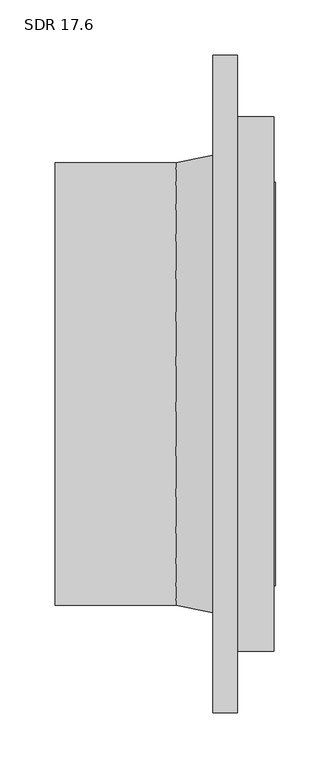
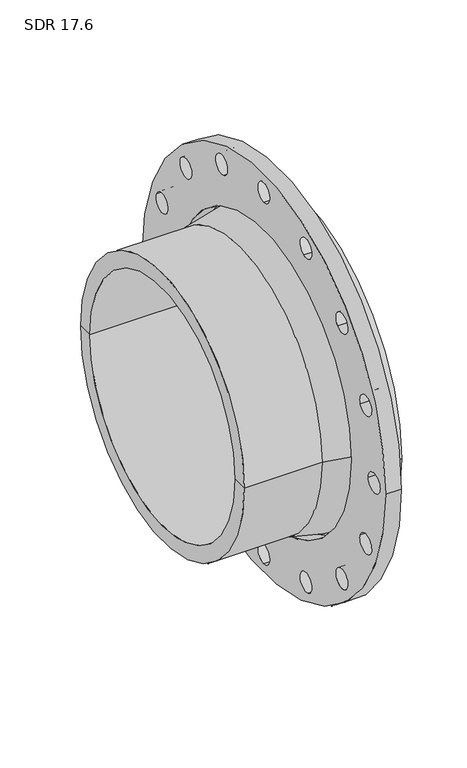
"""IFC4 building model written with IfcOpenShell, lengths in millimetres: valve geometry, Aquatherm - Flange Adapter Butt-Weld : SDR 17.6."""

from ifc_helpers import new_model, si_unit, point, frame, frame_2d, origin, origin_2d, place, context, project, spatial, polyline, circle_curve, trimmed, segment, composite_curve, outline, extrude, source, transform, mapped, element, save
from ifc_brep_helpers import plane_surface, cylinder_surface, revolved_surface, advanced_brep


def sdr_17_6_9f485c36(model_context):
    return source(origin(), model_context, "Body", "SolidModel", [
        extrude(outline(composite_curve([segment(trimmed(circle_curve(origin_2d(), 298.45), [point((-298.45, 0.0))], [point((298.45, 0.0))], False, "CARTESIAN"), True, "CONTINUOUS"), segment(trimmed(circle_curve(origin_2d(), 298.45), [point((298.45, 0.0))], [point((-298.45, 0.0))], False, "CARTESIAN"), True, "CONTINUOUS")], self_intersect=False), holes=[composite_curve([segment(trimmed(circle_curve(origin_2d(), 214.63), [point((-214.63, 0.0))], [point((214.63, 0.0))], True, "CARTESIAN"), True, "CONTINUOUS"), segment(trimmed(circle_curve(origin_2d(), 214.63), [point((214.63, 0.0))], [point((-214.63, 0.0))], True, "CARTESIAN"), True, "CONTINUOUS")], self_intersect=False), composite_curve([segment(trimmed(circle_curve(frame_2d((270.51, 0.0)), 14.351), [point((256.159, 0.0))], [point((284.861, 0.0))], True, "CARTESIAN"), True, "CONTINUOUS"), segment(trimmed(circle_curve(frame_2d((270.51, 0.0)), 14.351), [point((284.861, 0.0))], [point((256.159, 0.0))], True, "CARTESIAN"), True, "CONTINUOUS")], self_intersect=False), composite_curve([segment(trimmed(circle_curve(frame_2d((249.9186523, -103.5196953)), 14.351), [point((236.6600572, -98.0278054))], [point((263.1772475, -109.0115852))], True, "CARTESIAN"), True, "CONTINUOUS"), segment(trimmed(circle_curve(frame_2d((249.9186523, -103.5196953)), 14.351), [point((263.1772475, -109.0115852))], [point((236.6600572, -98.0278054))], True, "CARTESIAN"), True, "CONTINUOUS")], self_intersect=False), composite_curve([segment(trimmed(circle_curve(frame_2d((249.9186523, 103.5196953)), 14.351), [point((236.6600572, 98.0278054))], [point((263.1772475, 109.0115852))], True, "CARTESIAN"), True, "CONTINUOUS"), segment(trimmed(circle_curve(frame_2d((249.9186523, 103.5196953)), 14.351), [point((263.1772475, 109.0115852))], [point((236.6600572, 98.0278054))], True, "CARTESIAN"), True, "CONTINUOUS")], self_intersect=False), composite_curve([segment(trimmed(circle_curve(frame_2d((191.2794554, 191.2794554)), 14.351), [point((181.131766, 181.131766))], [point((201.4271448, 201.4271448))], True, "CARTESIAN"), True, "CONTINUOUS"), segment(trimmed(circle_curve(frame_2d((191.2794554, 191.2794554)), 14.351), [point((201.4271448, 201.4271448))], [point((181.131766, 181.131766))], True, "CARTESIAN"), True, "CONTINUOUS")], self_intersect=False), composite_curve([segment(trimmed(circle_curve(frame_2d((103.5196953, 249.9186523)), 14.351), [point((98.0278054, 236.6600572))], [point((109.0115852, 263.1772475))], True, "CARTESIAN"), True, "CONTINUOUS"), segment(trimmed(circle_curve(frame_2d((103.5196953, 249.9186523)), 14.351), [point((109.0115852, 263.1772475))], [point((98.0278054, 236.6600572))], True, "CARTESIAN"), True, "CONTINUOUS")], self_intersect=False), composite_curve([segment(trimmed(circle_curve(frame_2d((0.0, 270.51)), 14.351), [point((0.0, 256.159))], [point((0.0, 284.861))], True, "CARTESIAN"), True, "CONTINUOUS"), segment(trimmed(circle_curve(frame_2d((0.0, 270.51)), 14.351), [point((0.0, 284.861))], [point((0.0, 256.159))], True, "CARTESIAN"), True, "CONTINUOUS")], self_intersect=False), composite_curve([segment(trimmed(circle_curve(frame_2d((-103.5196953, 249.9186523)), 14.351), [point((-98.0278054, 236.6600572))], [point((-109.0115852, 263.1772475))], True, "CARTESIAN"), True, "CONTINUOUS"), segment(trimmed(circle_curve(frame_2d((-103.5196953, 249.9186523)), 14.351), [point((-109.0115852, 263.1772475))], [point((-98.0278054, 236.6600572))], True, "CARTESIAN"), True, "CONTINUOUS")], self_intersect=False), composite_curve([segment(trimmed(circle_curve(frame_2d((-191.2794554, 191.2794554)), 14.351), [point((-181.131766, 181.131766))], [point((-201.4271448, 201.4271448))], True, "CARTESIAN"), True, "CONTINUOUS"), segment(trimmed(circle_curve(frame_2d((-191.2794554, 191.2794554)), 14.351), [point((-201.4271448, 201.4271448))], [point((-181.131766, 181.131766))], True, "CARTESIAN"), True, "CONTINUOUS")], self_intersect=False), composite_curve([segment(trimmed(circle_curve(frame_2d((-249.9186523, 103.5196953)), 14.351), [point((-236.6600572, 98.0278054))], [point((-263.1772475, 109.0115852))], True, "CARTESIAN"), True, "CONTINUOUS"), segment(trimmed(circle_curve(frame_2d((-249.9186523, 103.5196953)), 14.351), [point((-263.1772475, 109.0115852))], [point((-236.6600572, 98.0278054))], True, "CARTESIAN"), True, "CONTINUOUS")], self_intersect=False), composite_curve([segment(trimmed(circle_curve(frame_2d((-270.51, 0.0)), 14.351), [point((-256.159, 0.0))], [point((-284.861, 0.0))], True, "CARTESIAN"), True, "CONTINUOUS"), segment(trimmed(circle_curve(frame_2d((-270.51, 0.0)), 14.351), [point((-284.861, 0.0))], [point((-256.159, 0.0))], True, "CARTESIAN"), True, "CONTINUOUS")], self_intersect=False), composite_curve([segment(trimmed(circle_curve(frame_2d((-249.9186523, -103.5196953)), 14.351), [point((-236.6600572, -98.0278054))], [point((-263.1772475, -109.0115852))], True, "CARTESIAN"), True, "CONTINUOUS"), segment(trimmed(circle_curve(frame_2d((-249.9186523, -103.5196953)), 14.351), [point((-263.1772475, -109.0115852))], [point((-236.6600572, -98.0278054))], True, "CARTESIAN"), True, "CONTINUOUS")], self_intersect=False), composite_curve([segment(trimmed(circle_curve(frame_2d((-191.2794554, -191.2794554)), 14.351), [point((-181.131766, -181.131766))], [point((-201.4271448, -201.4271448))], True, "CARTESIAN"), True, "CONTINUOUS"), segment(trimmed(circle_curve(frame_2d((-191.2794554, -191.2794554)), 14.351), [point((-201.4271448, -201.4271448))], [point((-181.131766, -181.131766))], True, "CARTESIAN"), True, "CONTINUOUS")], self_intersect=False), composite_curve([segment(trimmed(circle_curve(frame_2d((-103.5196953, -249.9186523)), 14.351), [point((-98.0278054, -236.6600572))], [point((-109.0115852, -263.1772475))], True, "CARTESIAN"), True, "CONTINUOUS"), segment(trimmed(circle_curve(frame_2d((-103.5196953, -249.9186523)), 14.351), [point((-109.0115852, -263.1772475))], [point((-98.0278054, -236.6600572))], True, "CARTESIAN"), True, "CONTINUOUS")], self_intersect=False), composite_curve([segment(trimmed(circle_curve(frame_2d((0.0, -270.51)), 14.351), [point((0.0, -256.159))], [point((0.0, -284.861))], True, "CARTESIAN"), True, "CONTINUOUS"), segment(trimmed(circle_curve(frame_2d((0.0, -270.51)), 14.351), [point((0.0, -284.861))], [point((0.0, -256.159))], True, "CARTESIAN"), True, "CONTINUOUS")], self_intersect=False), composite_curve([segment(trimmed(circle_curve(frame_2d((103.5196953, -249.9186523)), 14.351), [point((98.0278054, -236.6600572))], [point((109.0115852, -263.1772475))], True, "CARTESIAN"), True, "CONTINUOUS"), segment(trimmed(circle_curve(frame_2d((103.5196953, -249.9186523)), 14.351), [point((109.0115852, -263.1772475))], [point((98.0278054, -236.6600572))], True, "CARTESIAN"), True, "CONTINUOUS")], self_intersect=False), composite_curve([segment(trimmed(circle_curve(frame_2d((191.2794554, -191.2794554)), 14.351), [point((181.131766, -181.131766))], [point((201.4271448, -201.4271448))], True, "CARTESIAN"), True, "CONTINUOUS"), segment(trimmed(circle_curve(frame_2d((191.2794554, -191.2794554)), 14.351), [point((201.4271448, -201.4271448))], [point((181.131766, -181.131766))], True, "CARTESIAN"), True, "CONTINUOUS")], self_intersect=False)]), frame((-22.352, 0.0, 0.0), z_axis=(1.0, 0.0, 0.0), x_axis=(0.0, 1.0, 0.0)), (0.0, 0.0, 1.0), 22.352),
        advanced_brep(
        [(33.02, 242.57, 0.0), (33.02, -242.57, 0.0), (0.0, -242.57, 0.0), (0.0, 242.57, 0.0), (34.6075, 178.054, 0.0), (34.6075, -178.054, 0.0), (34.6075, -183.134, 0.0), (34.6075, 183.134, 0.0), (-165.862, 178.054, 0.0), (-165.862, -178.054, 0.0), (-165.862, 200.66, 0.0), (-165.862, -200.66, 0.0), (-55.88, 200.66, 0.0), (-55.88, -200.66, 0.0), (0.0, -212.09, 0.0), (0.0, 212.09, 0.0), (33.02, 183.134, 0.0), (33.02, -183.134, 0.0)],
        [
            (0, 1, circle_curve(frame((33.02, 0.0, 0.0), z_axis=(-1.0, 0.0, 0.0), x_axis=(0.0, -1.0, 0.0)), 242.57)),
            (1, 2),
            (2, 3, circle_curve(frame((0.0, 0.0, 0.0), z_axis=(1.0, 0.0, 0.0), x_axis=(0.0, -1.0, 0.0)), 242.57)),
            (3, 0),
            (1, 0, circle_curve(frame((33.02, 0.0, 0.0), z_axis=(-1.0, 0.0, 0.0), x_axis=(0.0, -1.0, 0.0)), 242.57)),
            (3, 2, circle_curve(frame((0.0, 0.0, 0.0), z_axis=(1.0, 0.0, 0.0), x_axis=(0.0, -1.0, 0.0)), 242.57)),
            (4, 5, circle_curve(frame((34.6075, 0.0, 0.0), z_axis=(-1.0, 0.0, 0.0), x_axis=(0.0, -1.0, 0.0)), 178.054)),
            (5, 6),
            (6, 7, circle_curve(frame((34.6075, 0.0, 0.0), z_axis=(1.0, 0.0, 0.0), x_axis=(0.0, -1.0, 0.0)), 183.134)),
            (7, 4),
            (5, 4, circle_curve(frame((34.6075, 0.0, 0.0), z_axis=(-1.0, 0.0, 0.0), x_axis=(0.0, -1.0, 0.0)), 178.054)),
            (7, 6, circle_curve(frame((34.6075, 0.0, 0.0), z_axis=(1.0, 0.0, 0.0), x_axis=(0.0, -1.0, 0.0)), 183.134)),
            (8, 9, circle_curve(frame((-165.862, 0.0, 0.0), z_axis=(-1.0, 0.0, 0.0), x_axis=(0.0, -1.0, 0.0)), 178.054)),
            (9, 5),
            (4, 8),
            (9, 8, circle_curve(frame((-165.862, 0.0, 0.0), z_axis=(-1.0, 0.0, 0.0), x_axis=(0.0, -1.0, 0.0)), 178.054)),
            (10, 11, circle_curve(frame((-165.862, 0.0, 0.0), z_axis=(-1.0, 0.0, 0.0), x_axis=(0.0, -1.0, 0.0)), 200.66)),
            (11, 9),
            (8, 10),
            (11, 10, circle_curve(frame((-165.862, 0.0, 0.0), z_axis=(-1.0, 0.0, 0.0), x_axis=(0.0, -1.0, 0.0)), 200.66)),
            (12, 13, circle_curve(frame((-55.88, 0.0, 0.0), z_axis=(-1.0, 0.0, 0.0), x_axis=(0.0, -1.0, 0.0)), 200.66)),
            (13, 11),
            (10, 12),
            (13, 12, circle_curve(frame((-55.88, 0.0, 0.0), z_axis=(-1.0, 0.0, 0.0), x_axis=(0.0, -1.0, 0.0)), 200.66)),
            (2, 14),
            (14, 15, circle_curve(frame((0.0, 0.0, 0.0), z_axis=(1.0, 0.0, 0.0), x_axis=(0.0, -1.0, 0.0)), 212.09)),
            (15, 3),
            (15, 14, circle_curve(frame((0.0, 0.0, 0.0), z_axis=(1.0, 0.0, 0.0), x_axis=(0.0, -1.0, 0.0)), 212.09)),
            (16, 17, circle_curve(frame((33.02, 0.0, 0.0), z_axis=(-1.0, 0.0, 0.0), x_axis=(0.0, -1.0, 0.0)), 183.134)),
            (17, 1),
            (0, 16),
            (17, 16, circle_curve(frame((33.02, 0.0, 0.0), z_axis=(-1.0, 0.0, 0.0), x_axis=(0.0, -1.0, 0.0)), 183.134)),
            (6, 17),
            (16, 7),
            (14, 13),
            (12, 15),
        ],
        [
            cylinder_surface(frame((1473.6589321, 0.0, 0.0), z_axis=(1.0, 0.0, 0.0), x_axis=(0.0, -1.0, 0.0)), 242.57),
            plane_surface(frame((34.6075, 0.0, 0.0), z_axis=(1.0, 0.0, 0.0), x_axis=(0.0, -1.0, 0.0))),
            revolved_surface(polyline([(34.60750000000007, -178.054, 0.0), (-165.86200000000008, -178.054, 0.0)]), (1473.6589321, 0.0, 0.0), (1.0, 0.0, 0.0)),
            plane_surface(frame((-165.862, 0.0, 0.0), z_axis=(-1.0, 0.0, 0.0), x_axis=(0.0, -1.0, 0.0))),
            cylinder_surface(frame((1473.6589321, 0.0, 0.0), z_axis=(1.0, 0.0, 0.0), x_axis=(0.0, -1.0, 0.0)), 200.66),
            plane_surface(frame((0.0, 0.0, 0.0), z_axis=(-1.0, 0.0, 0.0), x_axis=(0.0, -1.0, 0.0))),
            plane_surface(frame((33.02, 0.0, 0.0), z_axis=(1.0, 0.0, 0.0), x_axis=(0.0, -1.0, 0.0))),
            cylinder_surface(frame((1473.6589321, 0.0, 0.0), z_axis=(1.0, 0.0, 0.0), x_axis=(0.0, -1.0, 0.0)), 183.134),
            revolved_surface(polyline([(-55.88, -200.66, 0.0), (0.0, -212.09, 0.0)]), (1473.6589321, 0.0, 0.0), (1.0, 0.0, 0.0)),
        ],
        [
            (0, [[1, 2, 3, 4]]),
            (0, [[5, -4, 6, -2]]),
            (1, [[7, 8, 9, 10]]),
            (1, [[11, -10, 12, -8]]),
            (2, [[13, 14, -7, 15]]),
            (2, [[16, -15, -11, -14]]),
            (3, [[17, 18, -13, 19]]),
            (3, [[20, -19, -16, -18]]),
            (4, [[21, 22, -17, 23]]),
            (4, [[24, -23, -20, -22]]),
            (5, [[-3, 25, 26, 27]]),
            (5, [[-6, -27, 28, -25]]),
            (6, [[29, 30, -1, 31]]),
            (6, [[32, -31, -5, -30]]),
            (7, [[-9, 33, -29, 34]]),
            (7, [[-12, -34, -32, -33]]),
            (8, [[-26, 35, -21, 36]]),
            (8, [[-28, -36, -24, -35]]),
        ],
    ),
    ])


if __name__ == "__main__":
    model = new_model("IFC4")
    model_context = context("Model", 3, world=origin())
    ifc_project = project(units=[si_unit("LENGTHUNIT", "METRE", prefix="MILLI")], contexts=[model_context])
    site = spatial("IfcSite", under=ifc_project)
    building = spatial("IfcBuilding", under=site)
    placement = place(None, origin())
    sdr_17_6_shape = sdr_17_6_9f485c36(model_context)
    element("IfcValve", 1, ObjectType="Aquatherm - Flange Adapter Butt-Weld : SDR 17.6", at=placement, inside=building, context=model_context, shape_type="MappedRepresentation", body=[
        mapped(sdr_17_6_shape, transform((0.0, 0.0, 0.0), x_axis=(1.0, 0.0, 0.0), y_axis=(0.0, 1.0, 0.0), z_axis=(0.0, 0.0, 1.0))),
    ])
    save(model, "model.ifc")
